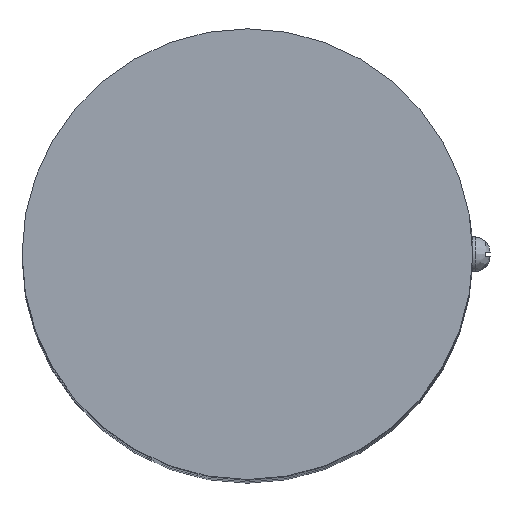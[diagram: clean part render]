
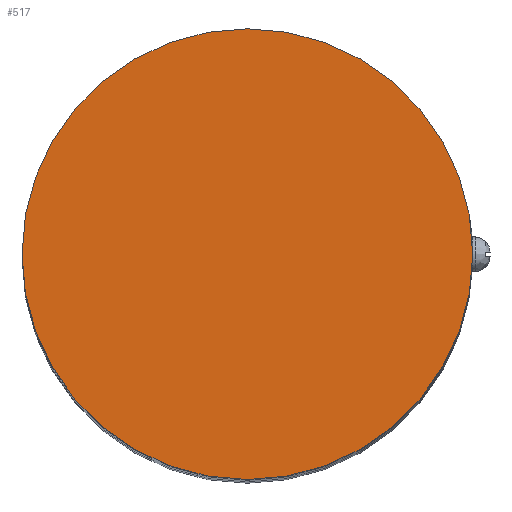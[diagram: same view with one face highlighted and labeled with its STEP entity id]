
A CAD part, top view. The second image highlights one B-rep face of the part: STEP entity #517.
In plain terms, the highlighted planar face has unit normal (0, 0, 1).
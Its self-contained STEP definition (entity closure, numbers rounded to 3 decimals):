
#117=FACE_OUTER_BOUND('',#162,.T.);
#162=EDGE_LOOP('',(#365));
#203=CIRCLE('',#574,26.);
#237=VERTEX_POINT('',#850);
#288=EDGE_CURVE('',#237,#237,#203,.T.);
#365=ORIENTED_EDGE('',*,*,#288,.T.);
#486=PLANE('',#573);
#517=ADVANCED_FACE('',(#117),#486,.T.);
#573=AXIS2_PLACEMENT_3D('',#849,#664,#665);
#574=AXIS2_PLACEMENT_3D('',#851,#666,#667);
#664=DIRECTION('center_axis',(0.,0.,1.));
#665=DIRECTION('ref_axis',(1.,0.,0.));
#666=DIRECTION('center_axis',(0.,0.,1.));
#667=DIRECTION('ref_axis',(-1.,0.,0.));
#849=CARTESIAN_POINT('Origin',(0.,0.,240.));
#850=CARTESIAN_POINT('',(26.,0.,240.));
#851=CARTESIAN_POINT('Origin',(0.,0.,240.));
